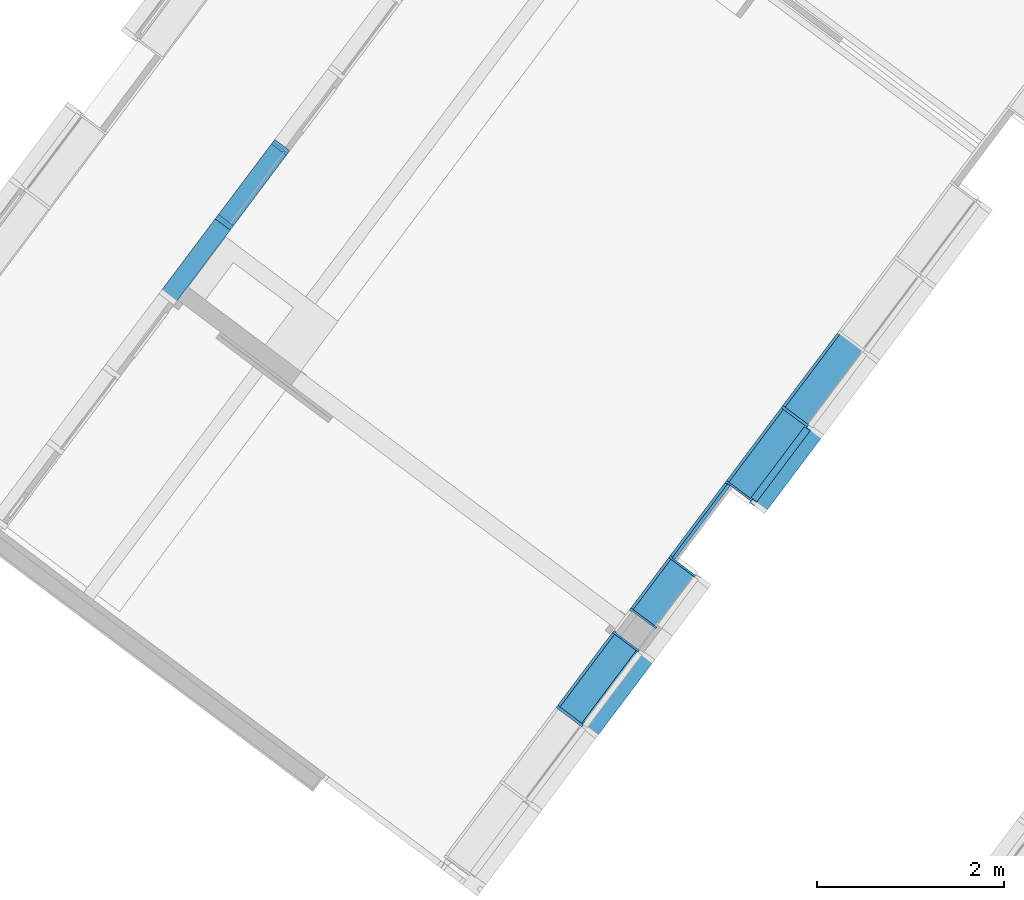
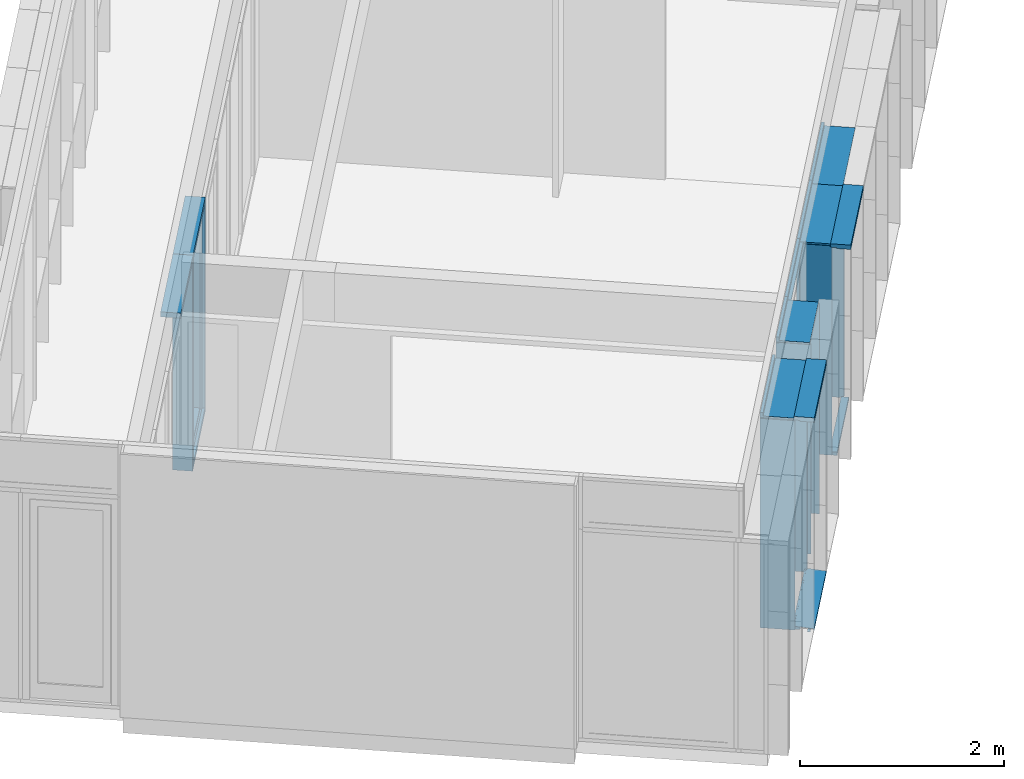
# One storey, part 6 of 243: 20 members, 3 elements without a shape of their own.
"""IFC2X3 building model written with IfcOpenShell, lengths in metres."""

from ifc_helpers import new_model, entity, si_unit, converted_unit, derived_unit, direction, frame, frame_2d, origin, origin_2d_with_axis, place, context, subcontext, project, spatial, polyline, circle_curve, parameter, trimmed, segment, composite_curve, rectangle, outline, extrude, source, transform, mapped, material, type_object, type_shapes, element, aggregate, save


model = new_model("IFC2X3")

# Units and contexts
model_context = context("Model", 3, precision=1e-05, world=origin(), true_north=direction((6.123031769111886e-17, 1.0)))
body_context = subcontext(model_context, "Body", "Model", "MODEL_VIEW")
ifc_project = project(units=[si_unit("LENGTHUNIT", "METRE"), si_unit("AREAUNIT", "SQUARE_METRE"), si_unit("VOLUMEUNIT", "CUBIC_METRE"), converted_unit("PLANEANGLEUNIT", "DEGREE", entity("IfcRatioMeasure", 0.017453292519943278), si_unit("PLANEANGLEUNIT", "RADIAN"), dimensions=[0, 0, 0, 0, 0, 0, 0]), si_unit("MASSUNIT", "GRAM", prefix="KILO"), derived_unit("MASSDENSITYUNIT", [(si_unit("MASSUNIT", "GRAM", prefix="KILO"), 1), (si_unit("LENGTHUNIT", "METRE"), -3)]), derived_unit("IONCONCENTRATIONUNIT", [(si_unit("MASSUNIT", "GRAM", prefix="KILO"), 1), (si_unit("LENGTHUNIT", "METRE"), -3)]), derived_unit("MOMENTOFINERTIAUNIT", [(si_unit("LENGTHUNIT", "METRE"), 4)]), si_unit("TIMEUNIT", "SECOND"), si_unit("FREQUENCYUNIT", "HERTZ"), si_unit("THERMODYNAMICTEMPERATUREUNIT", "DEGREE_CELSIUS"), derived_unit("THERMALTRANSMITTANCEUNIT", [(si_unit("MASSUNIT", "GRAM", prefix="KILO"), 1), (si_unit("THERMODYNAMICTEMPERATUREUNIT", "KELVIN"), -1), (si_unit("TIMEUNIT", "SECOND"), -3)]), derived_unit("THERMALCONDUCTANCEUNIT", [(si_unit("MASSUNIT", "GRAM", prefix="KILO"), 1), (si_unit("THERMODYNAMICTEMPERATUREUNIT", "KELVIN"), -1), (si_unit("TIMEUNIT", "SECOND"), -3), (si_unit("LENGTHUNIT", "METRE"), 1)]), derived_unit("VOLUMETRICFLOWRATEUNIT", [(si_unit("LENGTHUNIT", "METRE"), 3), (si_unit("TIMEUNIT", "SECOND"), -1)]), derived_unit("MASSFLOWRATEUNIT", [(si_unit("MASSUNIT", "GRAM", prefix="KILO"), 1), (si_unit("TIMEUNIT", "SECOND"), -1)]), derived_unit("ROTATIONALFREQUENCYUNIT", [(si_unit("TIMEUNIT", "SECOND"), -1)]), si_unit("ELECTRICCURRENTUNIT", "AMPERE"), si_unit("ELECTRICVOLTAGEUNIT", "VOLT"), si_unit("POWERUNIT", "WATT"), si_unit("FORCEUNIT", "NEWTON", prefix="KILO"), si_unit("ILLUMINANCEUNIT", "LUX"), si_unit("LUMINOUSFLUXUNIT", "LUMEN"), si_unit("LUMINOUSINTENSITYUNIT", "CANDELA"), derived_unit("USERDEFINED", [(si_unit("MASSUNIT", "GRAM", prefix="KILO"), -1), (si_unit("LENGTHUNIT", "METRE"), -2), (si_unit("TIMEUNIT", "SECOND"), 3), (si_unit("LUMINOUSFLUXUNIT", "LUMEN"), 1)]), derived_unit("USERDEFINED", [(si_unit("MASSUNIT", "GRAM", prefix="KILO"), 1), (si_unit("TIMEUNIT", "SECOND"), -3), (si_unit("LENGTHUNIT", "METRE"), 3), (si_unit("ELECTRICCURRENTUNIT", "AMPERE"), -2)]), derived_unit("SOUNDPOWERUNIT", [(si_unit("MASSUNIT", "GRAM", prefix="KILO"), 1), (si_unit("TIMEUNIT", "SECOND"), -3), (si_unit("LENGTHUNIT", "METRE"), 2)]), derived_unit("SOUNDPRESSUREUNIT", [(si_unit("MASSUNIT", "GRAM", prefix="KILO"), 1), (si_unit("LENGTHUNIT", "METRE"), -1), (si_unit("TIMEUNIT", "SECOND"), -2)]), derived_unit("LINEARVELOCITYUNIT", [(si_unit("LENGTHUNIT", "METRE"), 1), (si_unit("TIMEUNIT", "SECOND"), -1)]), si_unit("PRESSUREUNIT", "PASCAL"), derived_unit("USERDEFINED", [(si_unit("MASSUNIT", "GRAM", prefix="KILO"), 1), (si_unit("LENGTHUNIT", "METRE"), -2), (si_unit("TIMEUNIT", "SECOND"), -2)]), derived_unit("LINEARFORCEUNIT", [(si_unit("MASSUNIT", "GRAM", prefix="KILO"), 1), (si_unit("TIMEUNIT", "SECOND"), -2)]), derived_unit("PLANARFORCEUNIT", [(si_unit("MASSUNIT", "GRAM", prefix="KILO"), 1), (si_unit("LENGTHUNIT", "METRE"), -1), (si_unit("TIMEUNIT", "SECOND"), -2)]), derived_unit("SPECIFICHEATCAPACITYUNIT", [(si_unit("THERMODYNAMICTEMPERATUREUNIT", "KELVIN"), -1), (si_unit("LENGTHUNIT", "METRE"), 2), (si_unit("TIMEUNIT", "SECOND"), -2)]), derived_unit("HEATINGVALUEUNIT", [(si_unit("LENGTHUNIT", "METRE"), 2), (si_unit("TIMEUNIT", "SECOND"), -2)]), derived_unit("VAPORPERMEABILITYUNIT", [(si_unit("LENGTHUNIT", "METRE"), -1), (si_unit("TIMEUNIT", "SECOND"), 1)]), derived_unit("DYNAMICVISCOSITYUNIT", [(si_unit("MASSUNIT", "GRAM", prefix="KILO"), 1), (si_unit("TIMEUNIT", "SECOND"), -1), (si_unit("LENGTHUNIT", "METRE"), -1)]), derived_unit("THERMALEXPANSIONCOEFFICIENTUNIT", [(si_unit("THERMODYNAMICTEMPERATUREUNIT", "KELVIN"), -1)]), derived_unit("MODULUSOFELASTICITYUNIT", [(si_unit("MASSUNIT", "GRAM", prefix="KILO"), 1), (si_unit("LENGTHUNIT", "METRE"), -1), (si_unit("TIMEUNIT", "SECOND"), -2)]), derived_unit("ISOTHERMALMOISTURECAPACITYUNIT", [(si_unit("LENGTHUNIT", "METRE"), 3), (si_unit("MASSUNIT", "GRAM", prefix="KILO"), -1)]), derived_unit("MOISTUREDIFFUSIVITYUNIT", [(si_unit("TIMEUNIT", "SECOND"), -1), (si_unit("LENGTHUNIT", "METRE"), 2)])], contexts=[model_context])

# Site, building, storey
site_placement = place(None, frame((0.0, 0.0, 235.0), z_axis=(0.0, 0.0, 1.0), x_axis=(-0.7996477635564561, 0.6004693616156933, 0.0)))
site = spatial("IfcSite", under=ifc_project, at=site_placement, Name="Default", CompositionType="ELEMENT")
building_placement = place(site_placement, origin())
building = spatial("IfcBuilding", under=site, at=building_placement, CompositionType="ELEMENT")
storey_placement = place(building_placement, origin())
storey = spatial("IfcBuildingStorey", under=building, at=storey_placement, Name="P0- Escola", CompositionType="ELEMENT", Elevation=0.0)

# Curtain wall, members
curtain_wall_type_1 = type_object("IfcCurtainWallType", Name="Muro cortina:MC- INT- a1", PredefinedType="NOTDEFINED")
curtain_wall_1_placement = place(storey_placement, origin())
curtain_wall_1 = element("IfcCurtainWall", 1, at=curtain_wall_1_placement, inside=storey, type_object=curtain_wall_type_1, Name="Muro cortina:MC- INT- a1", ObjectType="Muro cortina:MC- INT- a1")
ifc_material_1 = material(Name="_Fusta massisa- T1")
member_type_1 = type_object("IfcMemberType", Name="Montante rectangular:MC- Fusta- 20x6 cm- Esquerra", PredefinedType="MULLION", material=ifc_material_1)
shared_shape_1 = source(origin(), body_context, "Body", "SweptSolid", [
    extrude(outline(polyline([(-0.07000000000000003, -0.01875000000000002), (-0.04000000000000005, -0.01875000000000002), (-0.04000000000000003, -0.0037500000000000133), (-0.020000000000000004, -0.0037500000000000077), (-0.02, -0.018750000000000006), (0.13, -0.018749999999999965), (0.12999999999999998, 0.04125000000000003), (-0.06999999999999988, 0.04124999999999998), (-0.07000000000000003, -0.01875000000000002)])), frame((-0.01124999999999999, -0.03, -2.5050000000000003), z_axis=(0.0, 0.0, 1.0), x_axis=(0.0, -1.0, 0.0)), (0.0, 0.0, 1.0), 2.5050000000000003),
])
type_shapes(member_type_1, [shared_shape_1])
member_1_placement = place(curtain_wall_1_placement, frame((47.320147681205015, -25.41518997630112, 0.0), z_axis=(0.0, 0.0, -1.0), x_axis=(0.0, -1.0, 0.0)))
member_1 = element("IfcMember", 2, at=member_1_placement, type_object=member_type_1, material=ifc_material_1, Name="Montante rectangular:MC- Fusta- 20x6 cm- Esquerra", ObjectType="Montante rectangular:MC- Fusta- 20x6 cm- Esquerra", context=body_context, shape_type="MappedRepresentation", body=[
    mapped(shared_shape_1, transform((0.0, 0.0, 0.0), scale=1.0)),
])
member_type_2 = type_object("IfcMemberType", Name="Montante rectangular:MC- Fusta- 20x6 cm- Neutre", PredefinedType="MULLION", material=ifc_material_1)
shared_shape_2 = source(origin(), body_context, "Body", "SweptSolid", [
    extrude(rectangle(XDim=0.2, YDim=0.060000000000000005, at=frame_2d((-4.85722573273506e-17, -3.469446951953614e-18), x_axis=(1.0, 0.0))), frame((-0.03, -0.060000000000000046, -1.0), z_axis=(0.0, 0.0, 1.0), x_axis=(0.0, -1.0, 0.0)), (0.0, 0.0, 1.0), 0.9999999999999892),
])
type_shapes(member_type_2, [shared_shape_2])
member_2_placement = place(curtain_wall_1_placement, frame((47.320147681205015, -25.41518997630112, 2.565), z_axis=(0.0, -1.0, 0.0), x_axis=(0.0, 0.0, 1.0)))
member_2 = element("IfcMember", 3, at=member_2_placement, type_object=member_type_2, material=ifc_material_1, Name="Montante rectangular:MC- Fusta- 20x6 cm- Neutre", ObjectType="Montante rectangular:MC- Fusta- 20x6 cm- Neutre", context=body_context, shape_type="MappedRepresentation", body=[
    mapped(shared_shape_2, transform((0.0, 0.0, 0.0), scale=1.0)),
])
member_type_3 = type_object("IfcMemberType", Name="Montante rectangular:MC- Fusta- 20x6 cm- Neutre", PredefinedType="MULLION", material=ifc_material_1)
shared_shape_3 = source(origin(), body_context, "Body", "SweptSolid", [
    extrude(rectangle(XDim=0.2, YDim=0.060000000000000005, at=frame_2d((-4.85722573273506e-17, -3.469446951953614e-18), x_axis=(1.0, 0.0))), frame((-0.03, -0.060000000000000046, -1.0), z_axis=(0.0, 0.0, 1.0), x_axis=(0.0, -1.0, 0.0)), (0.0, 0.0, 1.0), 1.0000000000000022),
])
type_shapes(member_type_3, [shared_shape_3])
member_3_placement = place(curtain_wall_1_placement, frame((47.320147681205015, -24.415189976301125, 2.565), z_axis=(0.0, -1.0, 0.0), x_axis=(0.0, 0.0, 1.0)))
member_3 = element("IfcMember", 4, at=member_3_placement, type_object=member_type_3, material=ifc_material_1, Name="Montante rectangular:MC- Fusta- 20x6 cm- Neutre", ObjectType="Montante rectangular:MC- Fusta- 20x6 cm- Neutre", context=body_context, shape_type="MappedRepresentation", body=[
    mapped(shared_shape_3, transform((0.0, 0.0, 0.0), scale=1.0)),
])
member_type_4 = type_object("IfcMemberType", Name="Montante rectangular:MC- Fusta- 20x6 cm- Neutre", PredefinedType="MULLION", material=ifc_material_1)
shared_shape_4 = source(origin(), body_context, "Body", "SweptSolid", [
    extrude(rectangle(XDim=0.2, YDim=0.06, at=frame_2d((-4.85722573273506e-17, 0.0), x_axis=(1.0, 0.0))), frame((0.0, -0.060000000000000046, -2.5050000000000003), z_axis=(0.0, 0.0, 1.0), x_axis=(0.0, -1.0, 0.0)), (0.0, 0.0, 1.0), 2.5050000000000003),
])
type_shapes(member_type_4, [shared_shape_4])
member_4_placement = place(curtain_wall_1_placement, frame((47.320147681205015, -24.415189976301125, 0.0), z_axis=(0.0, 0.0, -1.0), x_axis=(0.0, -1.0, 0.0)))
member_4 = element("IfcMember", 5, at=member_4_placement, type_object=member_type_4, material=ifc_material_1, Name="Montante rectangular:MC- Fusta- 20x6 cm- Neutre", ObjectType="Montante rectangular:MC- Fusta- 20x6 cm- Neutre", context=body_context, shape_type="MappedRepresentation", body=[
    mapped(shared_shape_4, transform((0.0, 0.0, 0.0), scale=1.0)),
])
member_type_5 = type_object("IfcMemberType", Name="Montante rectangular:MC- Fusta- 20x6 cm- Inferior", PredefinedType="MULLION", material=ifc_material_1)
shared_shape_5 = source(origin(), body_context, "Body", "SweptSolid", [
    extrude(outline(polyline([(-0.06999999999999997, -0.018750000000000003), (-0.039999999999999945, -0.018750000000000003), (-0.03999999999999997, -0.003750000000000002), (-0.019999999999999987, -0.0037500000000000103), (-0.019999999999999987, -0.018750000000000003), (0.13000000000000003, -0.018750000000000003), (0.13000000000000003, 0.041249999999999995), (-0.07000000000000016, 0.041249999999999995), (-0.06999999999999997, -0.018750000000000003)])), frame((-0.041249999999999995, -0.02999999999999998, -0.9399999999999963), z_axis=(0.0, 0.0, 1.0), x_axis=(0.0, -1.0, 0.0)), (0.0, 0.0, 1.0), 0.9399999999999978),
])
type_shapes(member_type_5, [shared_shape_5])
member_5_placement = place(curtain_wall_1_placement, frame((47.320147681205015, -24.445189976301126, 0.0), z_axis=(0.0, 1.0, 0.0), x_axis=(0.0, 0.0, -1.0)))
member_5 = element("IfcMember", 6, at=member_5_placement, type_object=member_type_5, material=ifc_material_1, Name="Montante rectangular:MC- Fusta- 20x6 cm- Inferior", ObjectType="Montante rectangular:MC- Fusta- 20x6 cm- Inferior", context=body_context, shape_type="MappedRepresentation", body=[
    mapped(shared_shape_5, transform((0.0, 0.0, 0.0), scale=1.0)),
])
aggregate(curtain_wall_1, [member_2, member_1, member_3, member_4, member_5])

curtain_wall_type_2 = type_object("IfcCurtainWallType", Name="Muro cortina:MC- EXT- MC2", PredefinedType="NOTDEFINED")
curtain_wall_2_placement = place(storey_placement, origin())
curtain_wall_2 = element("IfcCurtainWall", 7, at=curtain_wall_2_placement, inside=storey, type_object=curtain_wall_type_2, Name="Muro cortina:MC- EXT- MC2", ObjectType="Muro cortina:MC- EXT- MC2")
ifc_material_2 = material(Name="_Alumini- T1- Perfil")
member_type_6 = type_object("IfcMemberType", Name="Montante rectangular:MC- Alu- 140x52,5 cm- Fa patis- Superior", PredefinedType="MULLION", material=ifc_material_2)
shared_shape_6 = source(origin(), body_context, "Body", "SweptSolid", [
    extrude(outline(polyline([(-0.11366666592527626, -0.021249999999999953), (0.026333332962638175, -0.021249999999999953), (0.026333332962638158, -0.010000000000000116), (0.0873333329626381, -0.010000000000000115), (0.0873333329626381, 0.03125000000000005), (-0.11366666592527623, 0.031250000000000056), (-0.11366666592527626, -0.021249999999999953)])), frame((-0.031250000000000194, 0.0273333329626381, -1.0), z_axis=(0.0, 0.0, 1.0), x_axis=(0.0, -1.0, 0.0)), (0.0, 0.0, 1.0), 0.9999999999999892),
])
type_shapes(member_type_6, [shared_shape_6])
member_6_placement = place(curtain_wall_2_placement, frame((41.045147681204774, -23.415191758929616, 2.545), z_axis=(0.0, -1.0, 0.0), x_axis=(0.0, 0.0, 1.0)))
member_6 = element("IfcMember", 8, at=member_6_placement, type_object=member_type_6, material=ifc_material_2, Name="Montante rectangular:MC- Alu- 140x52,5 cm- Fa patis- Superior", ObjectType="Montante rectangular:MC- Alu- 140x52,5 cm- Fa patis- Superior", context=body_context, shape_type="MappedRepresentation", body=[
    mapped(shared_shape_6, transform((0.0, 0.0, 0.0), scale=1.0)),
])
member_type_7 = type_object("IfcMemberType", Name="Montante rectangular:MC- Alu- 140x52,5 cm- Fa patis- inferior", PredefinedType="MULLION", material=ifc_material_2)
shared_shape_7 = source(origin(), body_context, "Body", "SweptSolid", [
    extrude(outline(composite_curve([segment(polyline([(0.1278672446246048, -0.02586710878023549), (0.14416724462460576, -0.025867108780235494)]), True, "CONTINUOUS"), segment(polyline([(0.14416724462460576, -0.025867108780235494), (0.1441672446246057, 0.009132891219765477)]), True, "CONTINUOUS"), segment(polyline([(0.1441672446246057, 0.009132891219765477), (0.06786724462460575, 0.009132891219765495)]), True, "CONTINUOUS"), segment(polyline([(0.06786724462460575, 0.009132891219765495), (0.06786724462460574, -0.021159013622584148)]), True, "CONTINUOUS"), segment(polyline([(0.06786724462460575, -0.02115901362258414), (-0.030132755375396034, -0.012332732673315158)]), True, "CONTINUOUS"), segment(polyline([(-0.03013275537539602, -0.012332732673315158), (-0.030132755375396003, 0.027132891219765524)]), True, "CONTINUOUS"), segment(polyline([(-0.030132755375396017, 0.02713289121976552), (-0.0021327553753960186, 0.02713289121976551)]), True, "CONTINUOUS"), segment(polyline([(-0.0021327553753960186, 0.027132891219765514), (-0.0021327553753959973, 0.029132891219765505)]), True, "CONTINUOUS"), segment(polyline([(-0.0021327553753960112, 0.029132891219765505), (-0.032132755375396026, 0.029132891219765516)]), True, "CONTINUOUS"), segment(polyline([(-0.032132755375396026, 0.029132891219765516), (-0.03213275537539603, -0.012152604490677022)]), True, "CONTINUOUS"), segment(polyline([(-0.03213275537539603, -0.012152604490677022), (-0.0701327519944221, -0.008730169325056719)]), True, "CONTINUOUS"), segment(polyline([(-0.0701327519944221, -0.008730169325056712), (-0.0701327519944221, 0.005766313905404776)]), True, "CONTINUOUS"), segment(trimmed(circle_curve(frame_2d((-0.0696327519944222, 0.0057663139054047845), x_axis=(-1.0, 0.0)), 0.0004999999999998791), [parameter(269.999999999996)], [parameter(0.0)], True, "PARAMETER"), False, "CONTINUOUS"), segment(polyline([(-0.0696327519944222, 0.00626631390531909), (-0.06213275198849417, 0.006266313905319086)]), True, "CONTINUOUS"), segment(polyline([(-0.06213275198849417, 0.006266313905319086), (-0.06213275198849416, 0.008266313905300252)]), True, "CONTINUOUS"), segment(polyline([(-0.06213275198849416, 0.008266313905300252), (-0.07013275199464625, 0.008266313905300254)]), True, "CONTINUOUS"), segment(trimmed(circle_curve(frame_2d((-0.07013275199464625, 0.006266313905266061), x_axis=(0.0, 1.0)), 0.0020000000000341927), [parameter(0.0)], [parameter(90.00000002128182)], True, "PARAMETER"), True, "CONTINUOUS"), segment(polyline([(-0.07213275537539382, 0.006266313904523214), (-0.07213275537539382, -0.008730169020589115)]), True, "CONTINUOUS"), segment(trimmed(circle_curve(frame_2d((-0.07013275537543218, -0.008730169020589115), x_axis=(-1.0, 0.0)), 0.0019999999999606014), [parameter(0.0)], [parameter(84.8535928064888)], True, "PARAMETER"), True, "CONTINUOUS"), segment(polyline([(-0.07031215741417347, -0.01072210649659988), (0.06786724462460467, -0.023167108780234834)]), True, "CONTINUOUS"), segment(polyline([(0.06786724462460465, -0.023167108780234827), (0.12786724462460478, -0.023167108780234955)]), True, "CONTINUOUS"), segment(polyline([(0.12786724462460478, -0.023167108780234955), (0.1278672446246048, -0.02586710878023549)]), True, "CONTINUOUS")], self_intersect=False)), frame((-0.029132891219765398, 0.06786724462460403, -1.0), z_axis=(0.0, 0.0, 1.0), x_axis=(0.0, -1.0, 0.0)), (0.0, 0.0, 1.0), 0.9999999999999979),
])
type_shapes(member_type_7, [shared_shape_7])
member_7_placement = place(curtain_wall_2_placement, frame((41.04514768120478, -22.41519175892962, -0.02), z_axis=(0.0, 1.0, 0.0), x_axis=(0.0, 0.0, -1.0)))
member_7 = element("IfcMember", 9, at=member_7_placement, type_object=member_type_7, material=ifc_material_2, Name="Montante rectangular:MC- Alu- 140x52,5 cm- Fa patis- inferior", ObjectType="Montante rectangular:MC- Alu- 140x52,5 cm- Fa patis- inferior", context=body_context, shape_type="MappedRepresentation", body=[
    mapped(shared_shape_7, transform((0.0, 0.0, 0.0), scale=1.0)),
])

curtain_wall_type_3 = type_object("IfcCurtainWallType", Name="Muro cortina:MC- INT- k7- Aules infantil", PredefinedType="NOTDEFINED")
curtain_wall_3_placement = place(storey_placement, origin())
curtain_wall_3 = element("IfcCurtainWall", 10, at=curtain_wall_3_placement, inside=storey, type_object=curtain_wall_type_3, Name="Muro cortina:MC- INT- k7- Aules infantil", ObjectType="Muro cortina:MC- INT- k7- Aules infantil")
member_type_8 = type_object("IfcMemberType", Name="Montante rectangular:MC- Fusta- 35x3 cm- Centre", PredefinedType="MULLION", material=ifc_material_1)
shared_shape_8 = source(origin(), body_context, "Body", "SweptSolid", [
    extrude(rectangle(XDim=0.3450000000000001, YDim=0.030000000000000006, at=frame_2d((0.0, 1.3964523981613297e-16), x_axis=(1.0, 0.0))), frame((0.0, 0.07750000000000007, -2.5049999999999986), z_axis=(0.0, 0.0, 1.0), x_axis=(0.0, -1.0, 0.0)), (0.0, 0.0, 1.0), 2.5049999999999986),
])
type_shapes(member_type_8, [shared_shape_8])
member_8_placement = place(curtain_wall_3_placement, frame((41.34514768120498, -22.415191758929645, 0.0), z_axis=(0.0, 0.0, -1.0), x_axis=(0.0, -1.0, 0.0)))
member_8 = element("IfcMember", 11, at=member_8_placement, type_object=member_type_8, material=ifc_material_1, Name="Montante rectangular:MC- Fusta- 35x3 cm- Centre", ObjectType="Montante rectangular:MC- Fusta- 35x3 cm- Centre", context=body_context, shape_type="MappedRepresentation", body=[
    mapped(shared_shape_8, transform((0.0, 0.0, 0.0), scale=1.0)),
])
member_9_placement = place(curtain_wall_3_placement, frame((41.34514768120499, -26.415191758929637, 0.0), z_axis=(0.0, 0.0, -1.0), x_axis=(0.0, -1.0, 0.0)))
member_9 = element("IfcMember", 12, at=member_9_placement, type_object=member_type_8, material=ifc_material_1, Name="Montante rectangular:MC- Fusta- 35x3 cm- Centre", ObjectType="Montante rectangular:MC- Fusta- 35x3 cm- Centre", context=body_context, shape_type="MappedRepresentation", body=[
    mapped(shared_shape_8, transform((0.0, 0.0, 0.0), scale=1.0)),
])
member_type_9 = type_object("IfcMemberType", Name="Montante rectangular:MC- Fusta- 35x3 cm- Pati aules- Remat superior", PredefinedType="MULLION", material=ifc_material_1)
shared_shape_9 = source(origin(), body_context, "Body", "SweptSolid", [
    extrude(outline(polyline([(-0.21333333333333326, -0.02666666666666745), (0.1216666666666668, -0.02666666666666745), (0.12166666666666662, 0.03333333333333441), (0.09166666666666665, 0.03333333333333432), (0.09166666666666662, -0.006666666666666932), (-0.2133333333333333, -0.006666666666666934), (-0.21333333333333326, -0.02666666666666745)])), frame((-0.033333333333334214, 0.026666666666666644, -1.0), z_axis=(0.0, 0.0, 1.0), x_axis=(0.0, -1.0, 0.0)), (0.0, 0.0, 1.0), 0.9999999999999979),
])
type_shapes(member_type_9, [shared_shape_9])
member_10_placement = place(curtain_wall_3_placement, frame((41.34514768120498, -23.415191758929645, 2.565), z_axis=(0.0, -1.0, 0.0), x_axis=(0.0, 0.0, 1.0)))
member_10 = element("IfcMember", 13, at=member_10_placement, type_object=member_type_9, material=ifc_material_1, Name="Montante rectangular:MC- Fusta- 35x3 cm- Pati aules- Remat superior", ObjectType="Montante rectangular:MC- Fusta- 35x3 cm- Pati aules- Remat superior", context=body_context, shape_type="MappedRepresentation", body=[
    mapped(shared_shape_9, transform((0.0, 0.0, 0.0), scale=1.0)),
])
member_11_placement = place(curtain_wall_3_placement, frame((41.34514768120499, -27.415191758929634, 2.565), z_axis=(0.0, -1.0, 0.0), x_axis=(0.0, 0.0, 1.0)))
member_11 = element("IfcMember", 14, at=member_11_placement, type_object=member_type_9, material=ifc_material_1, Name="Montante rectangular:MC- Fusta- 35x3 cm- Pati aules- Remat superior", ObjectType="Montante rectangular:MC- Fusta- 35x3 cm- Pati aules- Remat superior", context=body_context, shape_type="MappedRepresentation", body=[
    mapped(shared_shape_9, transform((0.0, 0.0, 0.0), scale=1.0)),
])
member_type_10 = type_object("IfcMemberType", Name="Montante rectangular:MC- Fusta- 35x3 cm- Pati aules- Remat dreta", PredefinedType="MULLION", material=ifc_material_1)
shared_shape_10 = source(origin(), body_context, "Body", "SweptSolid", [
    extrude(outline(polyline([(-0.22, -0.01666666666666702), (0.12500000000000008, -0.01666666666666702), (0.12500000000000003, 0.013333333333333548), (0.09500000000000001, 0.013333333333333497), (0.09499999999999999, 0.003333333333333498), (-0.22, 0.003333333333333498), (-0.22, -0.01666666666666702)])), frame((0.0016666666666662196, 0.03000000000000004, -2.504999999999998), z_axis=(0.0, 0.0, 1.0), x_axis=(0.0, -1.0, 0.0)), (0.0, 0.0, 1.0), 2.5049999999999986),
])
type_shapes(member_type_10, [shared_shape_10])
member_12_placement = place(curtain_wall_3_placement, frame((41.34514768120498, -23.415191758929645, 0.0), z_axis=(0.0, 0.0, -1.0), x_axis=(0.0, -1.0, 0.0)))
member_12 = element("IfcMember", 15, at=member_12_placement, type_object=member_type_10, material=ifc_material_1, Name="Montante rectangular:MC- Fusta- 35x3 cm- Pati aules- Remat dreta", ObjectType="Montante rectangular:MC- Fusta- 35x3 cm- Pati aules- Remat dreta", context=body_context, shape_type="MappedRepresentation", body=[
    mapped(shared_shape_10, transform((0.0, 0.0, 0.0), scale=1.0)),
])
member_13_placement = place(curtain_wall_3_placement, frame((41.34514768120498, -24.41519175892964, 0.0), z_axis=(0.0, 0.0, -1.0), x_axis=(0.0, -1.0, 0.0)))
member_13 = element("IfcMember", 16, at=member_13_placement, type_object=member_type_10, material=ifc_material_1, Name="Montante rectangular:MC- Fusta- 35x3 cm- Pati aules- Remat dreta", ObjectType="Montante rectangular:MC- Fusta- 35x3 cm- Pati aules- Remat dreta", context=body_context, shape_type="MappedRepresentation", body=[
    mapped(shared_shape_10, transform((0.0, 0.0, 0.0), scale=1.0)),
])
member_type_11 = type_object("IfcMemberType", Name="Montante rectangular:MC- Fusta- 35x3 cm- Pati aules- Remat superior", PredefinedType="MULLION", material=ifc_material_1)
shared_shape_11 = source(origin(), body_context, "Body", "SweptSolid", [
    extrude(outline(polyline([(-0.21333333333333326, -0.02666666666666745), (0.1216666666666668, -0.02666666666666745), (0.12166666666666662, 0.03333333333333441), (0.09166666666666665, 0.03333333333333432), (0.09166666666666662, -0.006666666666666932), (-0.2133333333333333, -0.006666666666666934), (-0.21333333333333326, -0.02666666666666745)])), frame((-0.033333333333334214, 0.026666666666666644, -0.6999999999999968), z_axis=(0.0, 0.0, 1.0), x_axis=(0.0, -1.0, 0.0)), (0.0, 0.0, 1.0), 0.6999999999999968),
])
type_shapes(member_type_11, [shared_shape_11])
member_14_placement = place(curtain_wall_3_placement, frame((41.34514768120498, -24.41519175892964, 2.565), z_axis=(0.0, -1.0, 0.0), x_axis=(0.0, 0.0, 1.0)))
member_14 = element("IfcMember", 17, at=member_14_placement, type_object=member_type_11, material=ifc_material_1, Name="Montante rectangular:MC- Fusta- 35x3 cm- Pati aules- Remat superior", ObjectType="Montante rectangular:MC- Fusta- 35x3 cm- Pati aules- Remat superior", context=body_context, shape_type="MappedRepresentation", body=[
    mapped(shared_shape_11, transform((0.0, 0.0, 0.0), scale=1.0)),
])
member_type_12 = type_object("IfcMemberType", Name="Montante rectangular:MC- Fusta- 35x3 cm- Pati aules- Remat superior pilar", PredefinedType="MULLION", material=ifc_material_1)
shared_shape_12 = source(origin(), body_context, "Body", "SweptSolid", [
    extrude(outline(polyline([(-0.03333333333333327, -0.02666666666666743), (0.031666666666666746, -0.02666666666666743), (0.031666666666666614, 0.03333333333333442), (0.0016666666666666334, 0.033333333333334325), (0.0016666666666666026, -0.006666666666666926), (-0.03333333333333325, -0.00666666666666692), (-0.03333333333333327, -0.02666666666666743)])), frame((-0.03333333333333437, -0.06333333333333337, -1.0), z_axis=(0.0, 0.0, 1.0), x_axis=(0.0, -1.0, 0.0)), (0.0, 0.0, 1.0), 0.9999999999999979),
])
type_shapes(member_type_12, [shared_shape_12])
member_15_placement = place(curtain_wall_3_placement, frame((41.34514768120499, -25.415191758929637, 2.565), z_axis=(0.0, -1.0, 0.0), x_axis=(0.0, 0.0, 1.0)))
member_15 = element("IfcMember", 18, at=member_15_placement, type_object=member_type_12, material=ifc_material_1, Name="Montante rectangular:MC- Fusta- 35x3 cm- Pati aules- Remat superior pilar", ObjectType="Montante rectangular:MC- Fusta- 35x3 cm- Pati aules- Remat superior pilar", context=body_context, shape_type="MappedRepresentation", body=[
    mapped(shared_shape_12, transform((0.0, 0.0, 0.0), scale=1.0)),
])
member_type_13 = type_object("IfcMemberType", Name="Montante rectangular:MC- Fusta- 35x3 cm- Pati aules- Remat esquerra", PredefinedType="MULLION", material=ifc_material_1)
shared_shape_13 = source(origin(), body_context, "Body", "SweptSolid", [
    extrude(outline(polyline([(0.09500000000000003, -0.013333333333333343), (0.12500000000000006, -0.013333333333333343), (0.12500000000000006, 0.01666666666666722), (-0.22000000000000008, 0.016666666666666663), (-0.22000000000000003, -0.0033333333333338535), (0.09499999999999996, -0.003333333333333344), (0.09500000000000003, -0.013333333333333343)])), frame((-0.0016666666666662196, 0.03000000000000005, -2.504999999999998), z_axis=(0.0, 0.0, 1.0), x_axis=(0.0, -1.0, 0.0)), (0.0, 0.0, 1.0), 2.5049999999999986),
])
type_shapes(member_type_13, [shared_shape_13])
member_16_placement = place(curtain_wall_3_placement, frame((41.34514768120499, -25.415191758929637, 0.0), z_axis=(0.0, 0.0, -1.0), x_axis=(0.0, -1.0, 0.0)))
member_16 = element("IfcMember", 19, at=member_16_placement, type_object=member_type_13, material=ifc_material_1, Name="Montante rectangular:MC- Fusta- 35x3 cm- Pati aules- Remat esquerra", ObjectType="Montante rectangular:MC- Fusta- 35x3 cm- Pati aules- Remat esquerra", context=body_context, shape_type="MappedRepresentation", body=[
    mapped(shared_shape_13, transform((0.0, 0.0, 0.0), scale=1.0)),
])
member_type_14 = type_object("IfcMemberType", Name="Montante rectangular:MC- Fusta- 35x3 cm- Pati aules- Remat superior", PredefinedType="MULLION", material=ifc_material_1)
shared_shape_14 = source(origin(), body_context, "Body", "SweptSolid", [
    extrude(outline(polyline([(-0.21333333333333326, -0.02666666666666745), (0.1216666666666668, -0.02666666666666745), (0.12166666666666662, 0.03333333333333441), (0.09166666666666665, 0.03333333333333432), (0.09166666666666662, -0.006666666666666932), (-0.2133333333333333, -0.006666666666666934), (-0.21333333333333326, -0.02666666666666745)])), frame((-0.033333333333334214, 0.026666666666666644, -1.0), z_axis=(0.0, 0.0, 1.0), x_axis=(0.0, -1.0, 0.0)), (0.0, 0.0, 1.0), 0.9999999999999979),
])
type_shapes(member_type_14, [shared_shape_14])
member_17_placement = place(curtain_wall_3_placement, frame((41.34514768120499, -26.415191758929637, 2.565), z_axis=(0.0, -1.0, 0.0), x_axis=(0.0, 0.0, 1.0)))
member_17 = element("IfcMember", 20, at=member_17_placement, type_object=member_type_14, material=ifc_material_1, Name="Montante rectangular:MC- Fusta- 35x3 cm- Pati aules- Remat superior", ObjectType="Montante rectangular:MC- Fusta- 35x3 cm- Pati aules- Remat superior", context=body_context, shape_type="MappedRepresentation", body=[
    mapped(shared_shape_14, transform((0.0, 0.0, 0.0), scale=1.0)),
])
member_type_15 = type_object("IfcMemberType", Name="Montante rectangular:MC- Fusta- 35x3 cm- Pati aules- Remat esquerra", PredefinedType="MULLION", material=ifc_material_1)
shared_shape_15 = source(origin(), body_context, "Body", "SweptSolid", [
    extrude(outline(polyline([(0.09500000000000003, -0.013333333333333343), (0.12500000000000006, -0.013333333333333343), (0.12500000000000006, 0.01666666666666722), (-0.22000000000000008, 0.016666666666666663), (-0.22000000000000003, -0.0033333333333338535), (0.09499999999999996, -0.003333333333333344), (0.09500000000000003, -0.013333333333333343)])), frame((-0.0016666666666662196, 0.03000000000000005, -2.504999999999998), z_axis=(0.0, 0.0, 1.0), x_axis=(0.0, -1.0, 0.0)), (0.0, 0.0, 1.0), 2.5049999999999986),
])
type_shapes(member_type_15, [shared_shape_15])
member_18_placement = place(curtain_wall_3_placement, frame((41.34514768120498, -23.715191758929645, 0.0), z_axis=(0.0, 0.0, -1.0), x_axis=(0.0, -1.0, 0.0)))
member_18 = element("IfcMember", 21, at=member_18_placement, type_object=member_type_15, material=ifc_material_1, Name="Montante rectangular:MC- Fusta- 35x3 cm- Pati aules- Remat esquerra", ObjectType="Montante rectangular:MC- Fusta- 35x3 cm- Pati aules- Remat esquerra", context=body_context, shape_type="MappedRepresentation", body=[
    mapped(shared_shape_15, transform((0.0, 0.0, 0.0), scale=1.0)),
])
aggregate(curtain_wall_3, [member_8, member_10, member_12, member_14, member_13, member_15, member_16, member_17, member_9, member_11, member_18])

# Member
member_type_16 = type_object("IfcMemberType", Name="Montante rectangular:MC- Alu- 140x52,5 cm- Fa patis- inferior porta", PredefinedType="MULLION", material=ifc_material_2)
shared_shape_16 = source(origin(), body_context, "Body", "SweptSolid", [
    extrude(rectangle(XDim=0.07629999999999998, YDim=0.04, at=origin_2d_with_axis()), frame((-0.020000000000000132, -0.0381500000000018, -0.9474999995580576), z_axis=(0.0, 0.0, 1.0), x_axis=(0.0, -1.0, 0.0)), (0.0, 0.0, 1.0), 0.9474999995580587),
])
type_shapes(member_type_16, [shared_shape_16])
member_19_placement = place(curtain_wall_2_placement, frame((41.045147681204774, -25.441441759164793, -0.02), z_axis=(0.0, 1.0, 0.0), x_axis=(0.0, 0.0, -1.0)))
member_19 = element("IfcMember", 22, at=member_19_placement, type_object=member_type_16, material=ifc_material_2, Name="Montante rectangular:MC- Alu- 140x52,5 cm- Fa patis- inferior porta", ObjectType="Montante rectangular:MC- Alu- 140x52,5 cm- Fa patis- inferior porta", context=body_context, shape_type="MappedRepresentation", body=[
    mapped(shared_shape_16, transform((0.0, 0.0, 0.0), scale=1.0)),
])

member_type_17 = type_object("IfcMemberType", Name="Montante rectangular:MC- Alu- 140x52,5 cm- Fa patis- Superior", PredefinedType="MULLION", material=ifc_material_2)
shared_shape_17 = source(origin(), body_context, "Body", "SweptSolid", [
    extrude(outline(polyline([(-0.11366666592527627, -0.021249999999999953), (0.02633333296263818, -0.021249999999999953), (0.02633333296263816, -0.010000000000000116), (0.08733333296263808, -0.010000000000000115), (0.08733333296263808, 0.03125000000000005), (-0.11366666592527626, 0.031250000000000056), (-0.11366666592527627, -0.021249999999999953)])), frame((-0.031250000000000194, 0.027333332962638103, -1.0262500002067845), z_axis=(0.0, 0.0, 1.0), x_axis=(0.0, -1.0, 0.0)), (0.0, 0.0, 1.0), 1.0262500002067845),
])
type_shapes(member_type_17, [shared_shape_17])
member_20_placement = place(curtain_wall_2_placement, frame((41.045147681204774, -26.41519175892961, 2.545), z_axis=(0.0, -1.0, 0.0), x_axis=(0.0, 0.0, 1.0)))
member_20 = element("IfcMember", 23, at=member_20_placement, type_object=member_type_17, material=ifc_material_2, Name="Montante rectangular:MC- Alu- 140x52,5 cm- Fa patis- Superior", ObjectType="Montante rectangular:MC- Alu- 140x52,5 cm- Fa patis- Superior", context=body_context, shape_type="MappedRepresentation", body=[
    mapped(shared_shape_17, transform((0.0, 0.0, 0.0), scale=1.0)),
])

aggregate(curtain_wall_2, [member_7, member_6, member_20, member_19])

save(model, "model.ifc")
